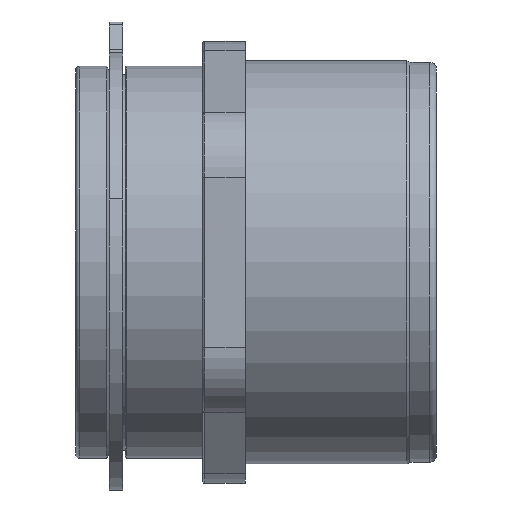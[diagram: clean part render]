
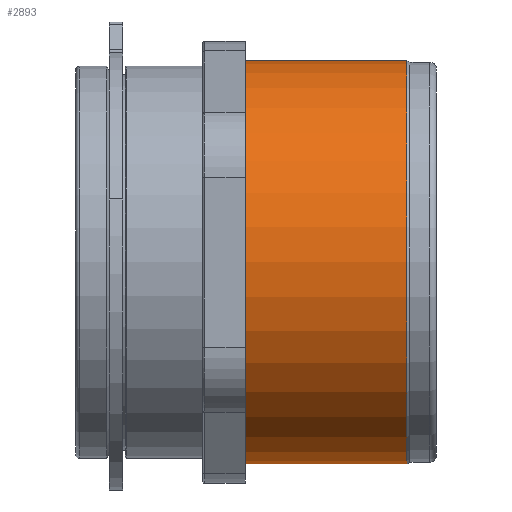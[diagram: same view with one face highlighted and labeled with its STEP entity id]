
A CAD part, left-side view. The second image highlights one B-rep face of the part: STEP entity #2893.
In plain terms, the highlighted cylindrical face has radius 30.152 mm (diameter 60.305 mm), a partial arc.
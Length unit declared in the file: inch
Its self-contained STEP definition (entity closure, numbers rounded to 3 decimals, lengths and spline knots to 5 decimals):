
#66 = AXIS2_PLACEMENT_3D ( 'NONE', #725, #726, #727 ) ;
#268 = EDGE_LOOP ( 'NONE', ( #3252, #3251, #3250, #3249 ) ) ;
#416 = VECTOR ( 'NONE', #2645, 39.37008 ) ;
#432 = LINE ( 'NONE', #2653, #416 ) ;
#435 = VECTOR ( 'NONE', #2632, 39.37008 ) ;
#439 = LINE ( 'NONE', #2642, #435 ) ;
#447 = CIRCLE ( 'NONE', #1298, 1.1871 ) ;
#456 = CIRCLE ( 'NONE', #1292, 1.1871 ) ;
#725 = CARTESIAN_POINT ( 'NONE',  ( 0., -1.125, 0. ) ) ;
#726 = DIRECTION ( 'NONE',  ( 0., 1., 0. ) ) ;
#727 = DIRECTION ( 'NONE',  ( 0., 0., 1. ) ) ;
#1292 = AXIS2_PLACEMENT_3D ( 'NONE', #2607, #2600, #2599 ) ;
#1298 = AXIS2_PLACEMENT_3D ( 'NONE', #2626, #2625, #2624 ) ;
#1389 = EDGE_CURVE ( 'NONE', #2805, #2062, #432, .T. ) ;
#1394 = EDGE_CURVE ( 'NONE', #2027, #2198, #439, .T. ) ;
#1398 = EDGE_CURVE ( 'NONE', #2805, #2027, #447, .T. ) ;
#1406 = EDGE_CURVE ( 'NONE', #2062, #2198, #456, .T. ) ;
#1792 = FACE_OUTER_BOUND ( 'NONE', #268, .T. ) ;
#1795 = CYLINDRICAL_SURFACE ( 'NONE', #66, 1.1871 ) ;
#1954 = CARTESIAN_POINT ( 'NONE',  ( 0., 0., 1.1871 ) ) ;
#1976 = CARTESIAN_POINT ( 'NONE',  ( 0., 0., -1.1871 ) ) ;
#2027 = VERTEX_POINT ( 'NONE', #2071 ) ;
#2062 = VERTEX_POINT ( 'NONE', #1976 ) ;
#2071 = CARTESIAN_POINT ( 'NONE',  ( 0., -0.95, 1.1871 ) ) ;
#2198 = VERTEX_POINT ( 'NONE', #1954 ) ;
#2599 = DIRECTION ( 'NONE',  ( 0., 0., 1. ) ) ;
#2600 = DIRECTION ( 'NONE',  ( 0., 1., 0. ) ) ;
#2607 = CARTESIAN_POINT ( 'NONE',  ( 0., 0., 0. ) ) ;
#2624 = DIRECTION ( 'NONE',  ( 0., 0., 1. ) ) ;
#2625 = DIRECTION ( 'NONE',  ( 0., 1., 0. ) ) ;
#2626 = CARTESIAN_POINT ( 'NONE',  ( 0., -0.95, 0. ) ) ;
#2632 = DIRECTION ( 'NONE',  ( 0., 1., 0. ) ) ;
#2642 = CARTESIAN_POINT ( 'NONE',  ( 0., -1.125, 1.1871 ) ) ;
#2645 = DIRECTION ( 'NONE',  ( 0., 1., 0. ) ) ;
#2653 = CARTESIAN_POINT ( 'NONE',  ( 0., -1.125, -1.1871 ) ) ;
#2805 = VERTEX_POINT ( 'NONE', #3196 ) ;
#2893 = ADVANCED_FACE ( 'NONE', ( #1792 ), #1795, .T. ) ;
#3196 = CARTESIAN_POINT ( 'NONE',  ( 0., -0.95, -1.1871 ) ) ;
#3249 = ORIENTED_EDGE ( 'NONE', *, *, #1406, .F. ) ;
#3250 = ORIENTED_EDGE ( 'NONE', *, *, #1394, .T. ) ;
#3251 = ORIENTED_EDGE ( 'NONE', *, *, #1398, .T. ) ;
#3252 = ORIENTED_EDGE ( 'NONE', *, *, #1389, .F. ) ;
